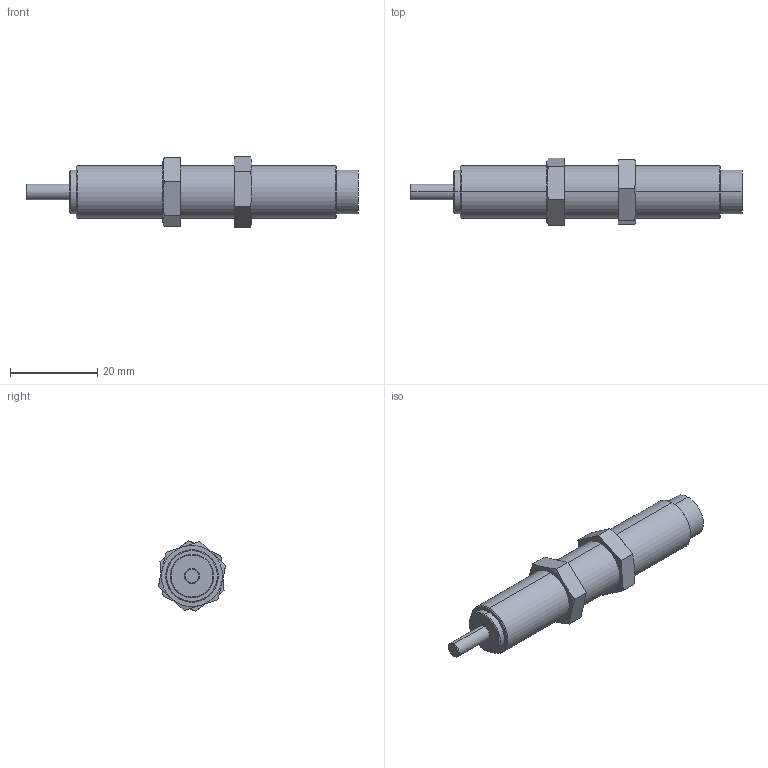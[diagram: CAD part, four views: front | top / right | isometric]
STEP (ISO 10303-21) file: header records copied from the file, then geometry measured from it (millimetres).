
FILE_DESCRIPTION (( 'STEP AP203' ), '1' );
FILE_NAME ('FSA-1210BB(CC)(CD).STEP', '2016-03-17T07:43:46', ( 'Sam Lin' ), ( '' ), 'SwSTEP 2.0', 'SolidWorks 2013', '' );
FILE_SCHEMA (( 'CONFIG_CONTROL_DESIGN' ));
Length unit declared in the file: metre
Products named in the file (3): FSA-1210BB(CC)(CD)_1; M12x1-4mm_1; FSA-1210BB(CC)(CD)
Assembly tree (3 placements, depth 2):
  FSA-1210BB(CC)(CD)
    FSA-1210BB(CC)(CD)_1
    M12x1-4mm_1  x2
Bounding box: 76 x 15.44 x 16.1 mm (x, y, z)
Volume: 7956.6 mm3; surface area: 3734 mm2
Topology: 3 solids, 3 shells, 53 faces, 112 edges, 68 vertices
Faces by surface type: plane 21, cylinder 12, bspline 12, cone 8
Entity records: 1409 total; most frequent: CARTESIAN_POINT 333, DIRECTION 160, ORIENTED_EDGE 152, EDGE_CURVE 76, AXIS2_PLACEMENT_3D 65, VERTEX_POINT 46, EDGE_LOOP 42, FACE_OUTER_BOUND 37
